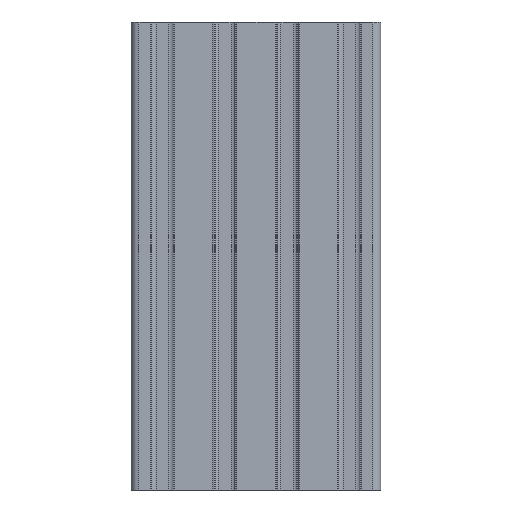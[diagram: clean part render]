
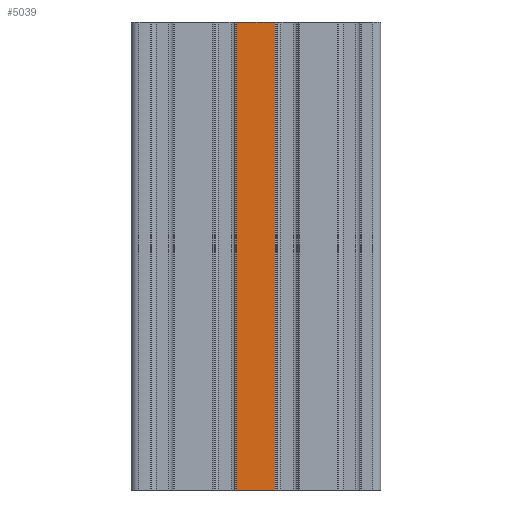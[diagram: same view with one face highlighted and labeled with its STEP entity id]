
A CAD part, front view. The second image highlights one B-rep face of the part: STEP entity #5039.
In plain terms, the highlighted planar face has unit normal (0, -1, 0).
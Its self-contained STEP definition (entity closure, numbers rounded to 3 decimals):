
#4981=CARTESIAN_POINT('',(6.1,-10.,150.0));
#4982=VERTEX_POINT('',#4981);
#4990=CARTESIAN_POINT('',(6.1,-10.,0.0));
#4991=VERTEX_POINT('',#4990);
#4992=CARTESIAN_POINT('',(6.1,-10.,0.0));
#4993=DIRECTION('',(0.0,0.0,1.0));
#4994=VECTOR('',#4993,150.0);
#4995=LINE('',#4992,#4994);
#4996=EDGE_CURVE('',#4991,#4982,#4995,.T.);
#5009=CARTESIAN_POINT('',(6.1,-10.,0.0));
#5010=DIRECTION('',(0.0,-1.0,0.0));
#5011=DIRECTION('',(0.0,0.0,-1.0));
#5012=AXIS2_PLACEMENT_3D('',#5009,#5010,#5011);
#5013=PLANE('',#5012);
#5014=CARTESIAN_POINT('',(-6.1,-10.0,150.0));
#5015=VERTEX_POINT('',#5014);
#5016=CARTESIAN_POINT('',(6.1,-10.,150.0));
#5017=DIRECTION('',(-1.0,0.0,0.0));
#5018=VECTOR('',#5017,12.2);
#5019=LINE('',#5016,#5018);
#5020=EDGE_CURVE('',#4982,#5015,#5019,.T.);
#5021=ORIENTED_EDGE('',*,*,#5020,.T.);
#5022=CARTESIAN_POINT('',(-6.1,-10.0,0.0));
#5023=VERTEX_POINT('',#5022);
#5024=CARTESIAN_POINT('',(-6.1,-10.0,0.0));
#5025=DIRECTION('',(0.0,0.0,1.0));
#5026=VECTOR('',#5025,150.0);
#5027=LINE('',#5024,#5026);
#5028=EDGE_CURVE('',#5023,#5015,#5027,.T.);
#5029=ORIENTED_EDGE('',*,*,#5028,.F.);
#5030=CARTESIAN_POINT('',(6.1,-10.,0.0));
#5031=DIRECTION('',(-1.0,0.0,0.0));
#5032=VECTOR('',#5031,12.2);
#5033=LINE('',#5030,#5032);
#5034=EDGE_CURVE('',#4991,#5023,#5033,.T.);
#5035=ORIENTED_EDGE('',*,*,#5034,.F.);
#5036=ORIENTED_EDGE('',*,*,#4996,.T.);
#5037=EDGE_LOOP('',(#5021,#5029,#5035,#5036));
#5038=FACE_OUTER_BOUND('',#5037,.T.);
#5039=ADVANCED_FACE('',(#5038),#5013,.T.);
